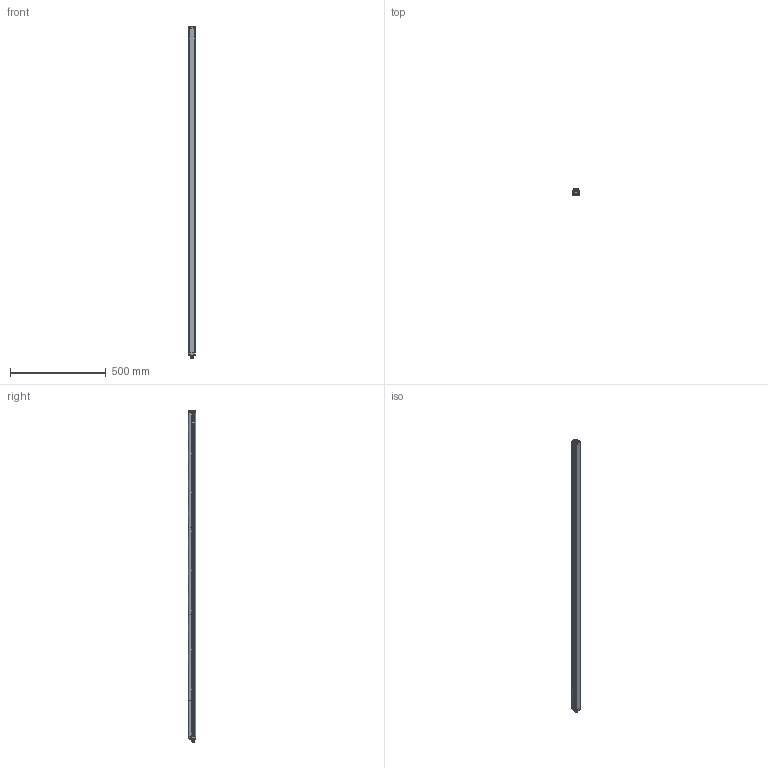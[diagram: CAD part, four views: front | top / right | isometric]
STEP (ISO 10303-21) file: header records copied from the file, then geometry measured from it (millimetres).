
FILE_DESCRIPTION(/* description */ (''),/* implementation_level */ '2;1');
FILE_NAME(/* name */ 'DSD-0167.stp',/* time_stamp */ '2020-07-16T11:52:22+02:00',/* author */ (''),/* organization */ (''),/* preprocessor_version */ 'ST-DEVELOPER v16.7',/* originating_system */ 'SIEMENS PLM Software NX 12.0',/* authorisation */ '');
FILE_SCHEMA (('AUTOMOTIVE_DESIGN { 1 0 10303 214 3 1 1 1 }'));
Products named in the file (1): AP025819_00_1-DSD-0167
Bounding box: 32.3 x 36.9 x 1733.34 mm (x, y, z)
Volume: 1746011 mm3; surface area: 402271.4 mm2
Topology: 12 solids, 716 shells, 1647 faces, 5149 edges, 4043 vertices
Faces by surface type: cylinder 608, bspline 572, plane 378, sphere 52, cone 29, torus 8
Full cylindrical faces by diameter (mm): 1 x10, 1.5 x6, 2 x6, 2.05 x4, 2.5 x12, 2.7 x10, 2.9 x6, 3 x12, 3.4 x6, 3.6 x12, 4.7 x2, 5 x10, 5.3 x2, 7.5 x1, 8 x1, 8.2 x1, 9.3 x1, 9.5 x1, 9.55 x1, 10.5 x1, 11 x2, 12 x12, 13.97 x1, 14.3 x1, 16 x2
Entity records: 84775 total; most frequent: CARTESIAN_POINT 35908, ORIENTED_EDGE 7014, DIRECTION 5973, EDGE_CURVE 4933, VERTEX_POINT 4036, AXIS2_PLACEMENT_3D 2331, EDGE_LOOP 1881, PRESENTATION_STYLE_ASSIGNMENT 1652
